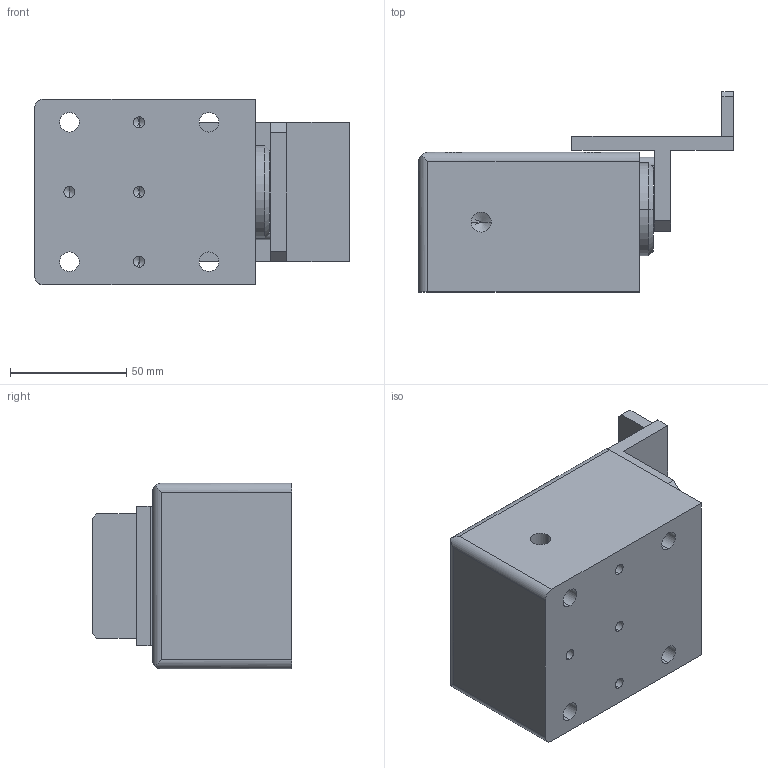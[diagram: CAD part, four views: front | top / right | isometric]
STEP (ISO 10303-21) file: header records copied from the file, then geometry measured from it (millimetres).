
FILE_DESCRIPTION (( 'STEP AP203' ), '1' );
FILE_NAME ('DESHB150T4.STEP', '2008-07-17T06:51:40', ( '' ), ( '' ), 'SwSTEP 2.0', 'SolidWorks 2007', '' );
FILE_SCHEMA (( 'CONFIG_CONTROL_DESIGN' ));
Length unit declared in the file: millimetre
Products named in the file (1): DESHB150T4
Bounding box: 135.5 x 86 x 80 mm (x, y, z)
Volume: 487156.8 mm3; surface area: 60392.9 mm2
Topology: 1 solids, 1 shells, 107 faces, 273 edges, 173 vertices
Faces by surface type: cylinder 47, plane 46, cone 14
Entity records: 3332 total; most frequent: CARTESIAN_POINT 634, DIRECTION 563, ORIENTED_EDGE 526, EDGE_CURVE 263, AXIS2_PLACEMENT_3D 206, VERTEX_POINT 173, LINE 151, VECTOR 151
